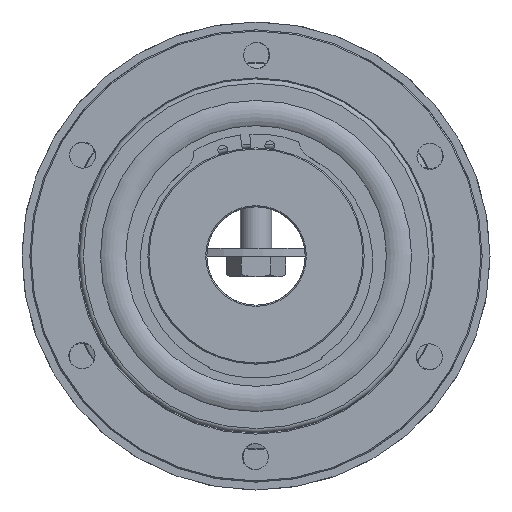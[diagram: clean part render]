
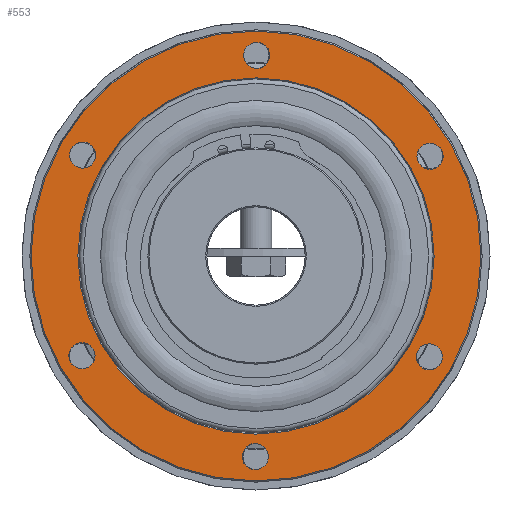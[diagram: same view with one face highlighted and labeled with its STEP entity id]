
A CAD part, left-side view. The second image highlights one B-rep face of the part: STEP entity #553.
In plain terms, the highlighted planar face has unit normal (-1, 0, 0).
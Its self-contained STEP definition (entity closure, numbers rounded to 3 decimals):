
#553 = ADVANCED_FACE( '', ( #1041, #1042, #1043, #1044, #1045, #1046, #1047, #1048 ), #1049, .F. );
#1041 = FACE_OUTER_BOUND( '', #1538, .T. );
#1042 = FACE_BOUND( '', #1539, .T. );
#1043 = FACE_BOUND( '', #1540, .T. );
#1044 = FACE_BOUND( '', #1541, .T. );
#1045 = FACE_BOUND( '', #1542, .T. );
#1046 = FACE_BOUND( '', #1543, .T. );
#1047 = FACE_BOUND( '', #1544, .T. );
#1048 = FACE_BOUND( '', #1545, .T. );
#1049 = PLANE( '', #1546 );
#1538 = EDGE_LOOP( '', ( #2547 ) );
#1539 = EDGE_LOOP( '', ( #2548 ) );
#1540 = EDGE_LOOP( '', ( #2549 ) );
#1541 = EDGE_LOOP( '', ( #2550 ) );
#1542 = EDGE_LOOP( '', ( #2551 ) );
#1543 = EDGE_LOOP( '', ( #2552 ) );
#1544 = EDGE_LOOP( '', ( #2553 ) );
#1545 = EDGE_LOOP( '', ( #2554 ) );
#1546 = AXIS2_PLACEMENT_3D( '', #2555, #2556, #2557 );
#2547 = ORIENTED_EDGE( '', *, *, #2914, .T. );
#2548 = ORIENTED_EDGE( '', *, *, #2904, .T. );
#2549 = ORIENTED_EDGE( '', *, *, #2912, .T. );
#2550 = ORIENTED_EDGE( '', *, *, #2915, .T. );
#2551 = ORIENTED_EDGE( '', *, *, #2916, .T. );
#2552 = ORIENTED_EDGE( '', *, *, #2917, .T. );
#2553 = ORIENTED_EDGE( '', *, *, #2918, .T. );
#2554 = ORIENTED_EDGE( '', *, *, #2919, .T. );
#2555 = CARTESIAN_POINT( '', ( -20.05, 57.5, 0. ) );
#2556 = DIRECTION( '', ( 1., 0., 0. ) );
#2557 = DIRECTION( '', ( 0., 1., 0. ) );
#2904 = EDGE_CURVE( '', #3370, #3370, #3371, .T. );
#2912 = EDGE_CURVE( '', #3386, #3386, #3387, .T. );
#2914 = EDGE_CURVE( '', #3390, #3390, #3391, .T. );
#2915 = EDGE_CURVE( '', #3392, #3392, #3393, .T. );
#2916 = EDGE_CURVE( '', #3394, #3394, #3395, .T. );
#2917 = EDGE_CURVE( '', #3396, #3396, #3397, .T. );
#2918 = EDGE_CURVE( '', #3398, #3398, #3399, .T. );
#2919 = EDGE_CURVE( '', #3400, #3400, #3401, .T. );
#3370 = VERTEX_POINT( '', #4312 );
#3371 = CIRCLE( '', #4313, 45.3 );
#3386 = VERTEX_POINT( '', #4328 );
#3387 = CIRCLE( '', #4329, 3.324 );
#3390 = VERTEX_POINT( '', #4332 );
#3391 = CIRCLE( '', #4333, 57.2 );
#3392 = VERTEX_POINT( '', #4334 );
#3393 = CIRCLE( '', #4335, 3.324 );
#3394 = VERTEX_POINT( '', #4336 );
#3395 = CIRCLE( '', #4337, 3.324 );
#3396 = VERTEX_POINT( '', #4338 );
#3397 = CIRCLE( '', #4339, 3.324 );
#3398 = VERTEX_POINT( '', #4340 );
#3399 = CIRCLE( '', #4341, 3.324 );
#3400 = VERTEX_POINT( '', #4342 );
#3401 = CIRCLE( '', #4343, 3.324 );
#4312 = CARTESIAN_POINT( '', ( -20.05, 0., -45.3 ) );
#4313 = AXIS2_PLACEMENT_3D( '', #4879, #4880, #4881 );
#4328 = CARTESIAN_POINT( '', ( -20.05, 47.046, 27.162 ) );
#4329 = AXIS2_PLACEMENT_3D( '', #4903, #4904, #4905 );
#4332 = CARTESIAN_POINT( '', ( -20.05, 0., -57.2 ) );
#4333 = AXIS2_PLACEMENT_3D( '', #4909, #4910, #4911 );
#4334 = CARTESIAN_POINT( '', ( -20.05, 47.046, -27.162 ) );
#4335 = AXIS2_PLACEMENT_3D( '', #4912, #4913, #4914 );
#4336 = CARTESIAN_POINT( '', ( -20.05, 0., -54.324 ) );
#4337 = AXIS2_PLACEMENT_3D( '', #4915, #4916, #4917 );
#4338 = CARTESIAN_POINT( '', ( -20.05, -47.046, -27.162 ) );
#4339 = AXIS2_PLACEMENT_3D( '', #4918, #4919, #4920 );
#4340 = CARTESIAN_POINT( '', ( -20.05, -47.046, 27.162 ) );
#4341 = AXIS2_PLACEMENT_3D( '', #4921, #4922, #4923 );
#4342 = CARTESIAN_POINT( '', ( -20.05, 0., 54.324 ) );
#4343 = AXIS2_PLACEMENT_3D( '', #4924, #4925, #4926 );
#4879 = CARTESIAN_POINT( '', ( -20.05, 0., 0. ) );
#4880 = DIRECTION( '', ( 1., 0., 0. ) );
#4881 = DIRECTION( '', ( 0., 0., -1. ) );
#4903 = CARTESIAN_POINT( '', ( -20.05, 44.167, 25.5 ) );
#4904 = DIRECTION( '', ( 1., 0., 0. ) );
#4905 = DIRECTION( '', ( 0., 0.866, 0.5 ) );
#4909 = CARTESIAN_POINT( '', ( -20.05, 0., 0. ) );
#4910 = DIRECTION( '', ( -1., 0., 0. ) );
#4911 = DIRECTION( '', ( 0., 0., -1. ) );
#4912 = CARTESIAN_POINT( '', ( -20.05, 44.167, -25.5 ) );
#4913 = DIRECTION( '', ( 1., 0., 0. ) );
#4914 = DIRECTION( '', ( 0., 0.866, -0.5 ) );
#4915 = CARTESIAN_POINT( '', ( -20.05, 0., -51. ) );
#4916 = DIRECTION( '', ( 1., 0., 0. ) );
#4917 = DIRECTION( '', ( 0., 0., -1. ) );
#4918 = CARTESIAN_POINT( '', ( -20.05, -44.167, -25.5 ) );
#4919 = DIRECTION( '', ( 1., 0., 0. ) );
#4920 = DIRECTION( '', ( 0., -0.866, -0.5 ) );
#4921 = CARTESIAN_POINT( '', ( -20.05, -44.167, 25.5 ) );
#4922 = DIRECTION( '', ( 1., 0., 0. ) );
#4923 = DIRECTION( '', ( 0., -0.866, 0.5 ) );
#4924 = CARTESIAN_POINT( '', ( -20.05, 0., 51. ) );
#4925 = DIRECTION( '', ( 1., 0., 0. ) );
#4926 = DIRECTION( '', ( 0., 0., 1. ) );
